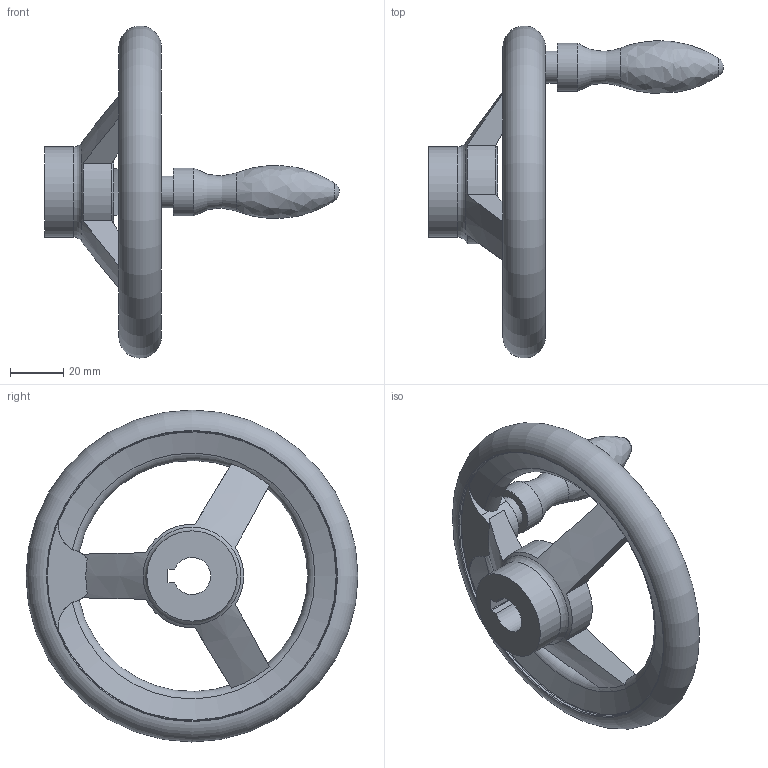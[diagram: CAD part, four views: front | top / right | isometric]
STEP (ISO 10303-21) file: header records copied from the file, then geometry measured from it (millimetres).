
FILE_DESCRIPTION( ( 'STEP AP203' ), '1' );
FILE_NAME( 'C:/Temp/Ganter_Step_05_03_2020/data/1_3/gn_950_1/gn_950_1_k/gn_950_1_k_d/Handwheel GN 950.1-GG-125-K14-D.stp', '2020-03-05T10:32:37', ( 'License CC BY-ND 4.0' ), ( 'CADENAS' ), ' ', 'PARTsolutions', ' ' );
FILE_SCHEMA( ( 'CONFIG_CONTROL_DESIGN' ) );
Length unit declared in the file: millimetre
Products named in the file (1): _Handwheel GN 950.1-GG-125-K14-D
Bounding box: 111 x 124.99 x 124.99 mm (x, y, z)
Volume: 116790.1 mm3; surface area: 32058.4 mm2
Topology: 1 solids, 1 shells, 50 faces, 142 edges, 91 vertices
Faces by surface type: cylinder 17, plane 14, torus 13, cone 4, bspline 1, sphere 1
Full cylindrical faces by diameter (mm): 12 x1, 18 x1, 34 x2, 109 x2
Entity records: 1855 total; most frequent: CARTESIAN_POINT 650, ORIENTED_EDGE 234, DIRECTION 228, EDGE_CURVE 117, AXIS2_PLACEMENT_3D 102, VERTEX_POINT 86, EDGE_LOOP 73, FACE_OUTER_BOUND 65
